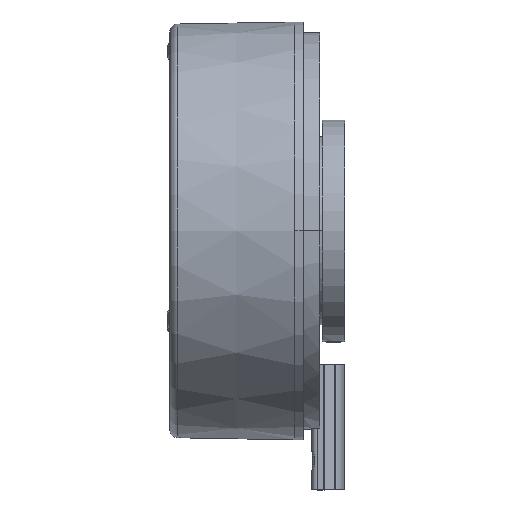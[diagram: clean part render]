
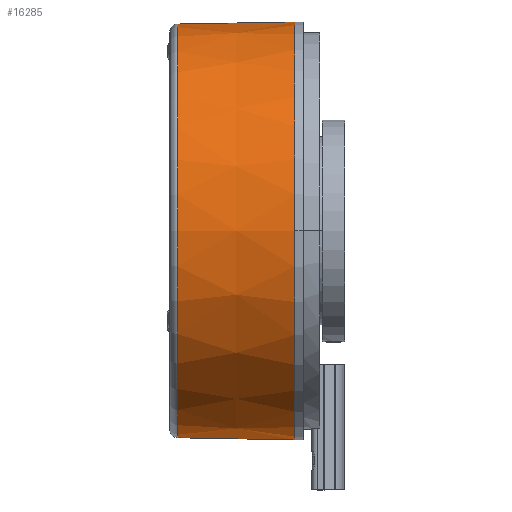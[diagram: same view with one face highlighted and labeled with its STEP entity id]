
A CAD part, top view. The second image highlights one B-rep face of the part: STEP entity #16285.
In plain terms, the highlighted conical face has half-angle 1 degrees and reference radius 50 mm.
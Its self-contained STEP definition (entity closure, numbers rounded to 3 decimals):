
#15664 = CARTESIAN_POINT ( 'NONE',  ( 15.192, 46.344, 0. ) ) ;
#15692 = CARTESIAN_POINT ( 'NONE',  ( 15.192, -52.677, 0. ) ) ;
#15843 = EDGE_CURVE ( 'NONE', #34802, #34817, #26940, .T. ) ;
#16285 = ADVANCED_FACE ( 'NONE', ( #27029 ), #27028, .T. ) ;
#16286 = EDGE_LOOP ( 'NONE', ( #16287, #16288, #16317, #16315 ) ) ;
#16287 = ORIENTED_EDGE ( 'NONE', *, *, #16292, .F. ) ;
#16288 = ORIENTED_EDGE ( 'NONE', *, *, #15843, .T. ) ;
#16292 = EDGE_CURVE ( 'NONE', #34802, #16298, #27076, .T. ) ;
#16298 = VERTEX_POINT ( 'NONE', #27064 ) ;
#16307 = EDGE_CURVE ( 'NONE', #34817, #16318, #27102, .T. ) ;
#16310 = EDGE_CURVE ( 'NONE', #16318, #16298, #27094, .T. ) ;
#16315 = ORIENTED_EDGE ( 'NONE', *, *, #16310, .T. ) ;
#16317 = ORIENTED_EDGE ( 'NONE', *, *, #16307, .T. ) ;
#16318 = VERTEX_POINT ( 'NONE', #27082 ) ;
#26936 = DIRECTION ( 'NONE',  ( 0., 1., 0. ) ) ;
#26937 = DIRECTION ( 'NONE',  ( 1., 0., 0. ) ) ;
#26938 = CARTESIAN_POINT ( 'NONE',  ( 15.192, -3.167, 0. ) ) ;
#26939 = AXIS2_PLACEMENT_3D ( 'NONE', #26938, #26937, #26936 ) ;
#26940 = CIRCLE ( 'NONE', #26939, 49.511 ) ;
#27024 = DIRECTION ( 'NONE',  ( 0., -1., 0. ) ) ;
#27025 = DIRECTION ( 'NONE',  ( 1., 0., 0. ) ) ;
#27026 = AXIS2_PLACEMENT_3D ( 'NONE', #27027, #27025, #27024 ) ;
#27027 = CARTESIAN_POINT ( 'NONE',  ( 43.227, -3.167, 0. ) ) ;
#27028 = CONICAL_SURFACE ( 'NONE', #27026, 50., 0.017 ) ;
#27029 = FACE_OUTER_BOUND ( 'NONE', #16286, .T. ) ;
#27064 = CARTESIAN_POINT ( 'NONE',  ( 43.227, 46.833, 0. ) ) ;
#27073 = DIRECTION ( 'NONE',  ( 1., 0.017, 0. ) ) ;
#27074 = VECTOR ( 'NONE', #27073, 1000. ) ;
#27075 = CARTESIAN_POINT ( 'NONE',  ( 43.227, 46.833, 0. ) ) ;
#27076 = LINE ( 'NONE', #27075, #27074 ) ;
#27082 = CARTESIAN_POINT ( 'NONE',  ( 43.227, -53.167, 0. ) ) ;
#27090 = DIRECTION ( 'NONE',  ( 0., 1., 0. ) ) ;
#27091 = DIRECTION ( 'NONE',  ( -1., 0., 0. ) ) ;
#27092 = CARTESIAN_POINT ( 'NONE',  ( 43.227, -3.167, 0. ) ) ;
#27093 = AXIS2_PLACEMENT_3D ( 'NONE', #27092, #27091, #27090 ) ;
#27094 = CIRCLE ( 'NONE', #27093, 50. ) ;
#27099 = DIRECTION ( 'NONE',  ( 1., -0.017, 0. ) ) ;
#27100 = VECTOR ( 'NONE', #27099, 1000. ) ;
#27101 = CARTESIAN_POINT ( 'NONE',  ( 43.227, -53.167, 0. ) ) ;
#27102 = LINE ( 'NONE', #27101, #27100 ) ;
#34802 = VERTEX_POINT ( 'NONE', #15664 ) ;
#34817 = VERTEX_POINT ( 'NONE', #15692 ) ;
